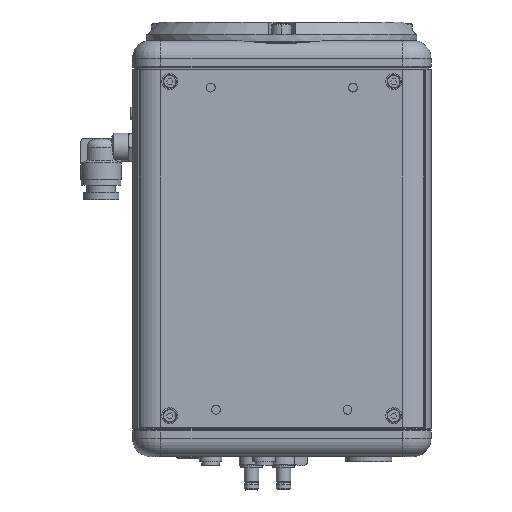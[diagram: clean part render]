
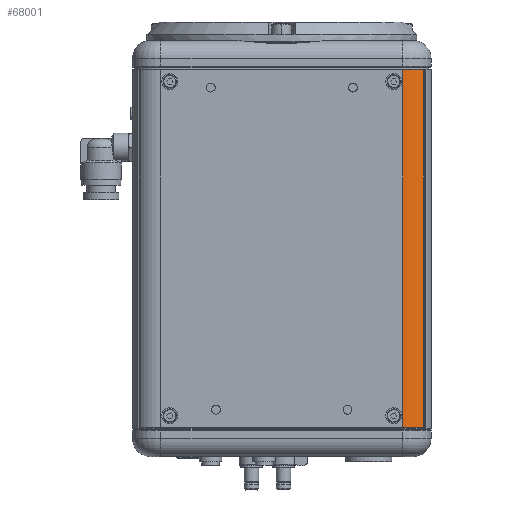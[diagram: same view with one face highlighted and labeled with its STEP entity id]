
A CAD part, front view. The second image highlights one B-rep face of the part: STEP entity #68001.
In plain terms, the highlighted cylindrical face has radius 8 mm (diameter 16 mm), a partial arc.
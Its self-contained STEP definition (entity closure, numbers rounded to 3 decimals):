
#1922 = CARTESIAN_POINT ( 'NONE',  ( 34., -42., -8.2 ) ) ;
#18262 = EDGE_CURVE ( 'NONE', #130899, #83666, #63101, .T. ) ;
#20712 = EDGE_LOOP ( 'NONE', ( #50858, #85105, #22225, #147514 ) ) ;
#22225 = ORIENTED_EDGE ( 'NONE', *, *, #165324, .F. ) ;
#26067 = CARTESIAN_POINT ( 'NONE',  ( 34., -34., -8.2 ) ) ;
#32937 = EDGE_CURVE ( 'NONE', #99009, #130899, #150865, .T. ) ;
#33746 = CYLINDRICAL_SURFACE ( 'NONE', #146445, 8. ) ;
#34803 = CARTESIAN_POINT ( 'NONE',  ( 34., -34., -8.2 ) ) ;
#35886 = DIRECTION ( 'NONE',  ( 0., 0., -1. ) ) ;
#37194 = CARTESIAN_POINT ( 'NONE',  ( 39.803, -39.506, -8.2 ) ) ;
#39935 = CIRCLE ( 'NONE', #65786, 8. ) ;
#43180 = CARTESIAN_POINT ( 'NONE',  ( 39.803, -39.506, -108.8 ) ) ;
#50858 = ORIENTED_EDGE ( 'NONE', *, *, #32937, .F. ) ;
#53660 = DIRECTION ( 'NONE',  ( 0., 0., 1. ) ) ;
#62147 = LINE ( 'NONE', #37194, #126107 ) ;
#63101 = LINE ( 'NONE', #158243, #134516 ) ;
#65786 = AXIS2_PLACEMENT_3D ( 'NONE', #34803, #174504, #80276 ) ;
#67564 = CARTESIAN_POINT ( 'NONE',  ( 34., -34., -108.8 ) ) ;
#68001 = ADVANCED_FACE ( 'NONE', ( #75645 ), #33746, .T. ) ;
#68403 = CARTESIAN_POINT ( 'NONE',  ( 39.803, -39.506, -8.2 ) ) ;
#75645 = FACE_OUTER_BOUND ( 'NONE', #20712, .T. ) ;
#80276 = DIRECTION ( 'NONE',  ( -1., 0., 0. ) ) ;
#83666 = VERTEX_POINT ( 'NONE', #1922 ) ;
#85105 = ORIENTED_EDGE ( 'NONE', *, *, #166032, .T. ) ;
#85237 = DIRECTION ( 'NONE',  ( -1., 0., 0. ) ) ;
#99009 = VERTEX_POINT ( 'NONE', #43180 ) ;
#126107 = VECTOR ( 'NONE', #53660, 1000. ) ;
#130899 = VERTEX_POINT ( 'NONE', #166826 ) ;
#134516 = VECTOR ( 'NONE', #156847, 1000. ) ;
#146445 = AXIS2_PLACEMENT_3D ( 'NONE', #26067, #151969, #85237 ) ;
#147514 = ORIENTED_EDGE ( 'NONE', *, *, #18262, .F. ) ;
#150865 = CIRCLE ( 'NONE', #194069, 8. ) ;
#151969 = DIRECTION ( 'NONE',  ( 0., 0., 1. ) ) ;
#156847 = DIRECTION ( 'NONE',  ( 0., 0., 1. ) ) ;
#158243 = CARTESIAN_POINT ( 'NONE',  ( 34., -42., -8.2 ) ) ;
#165324 = EDGE_CURVE ( 'NONE', #83666, #182985, #39935, .T. ) ;
#166032 = EDGE_CURVE ( 'NONE', #99009, #182985, #62147, .T. ) ;
#166826 = CARTESIAN_POINT ( 'NONE',  ( 34., -42., -108.8 ) ) ;
#174504 = DIRECTION ( 'NONE',  ( 0., 0., 1. ) ) ;
#177590 = DIRECTION ( 'NONE',  ( 1., 0., 0. ) ) ;
#182985 = VERTEX_POINT ( 'NONE', #68403 ) ;
#194069 = AXIS2_PLACEMENT_3D ( 'NONE', #67564, #35886, #177590 ) ;
